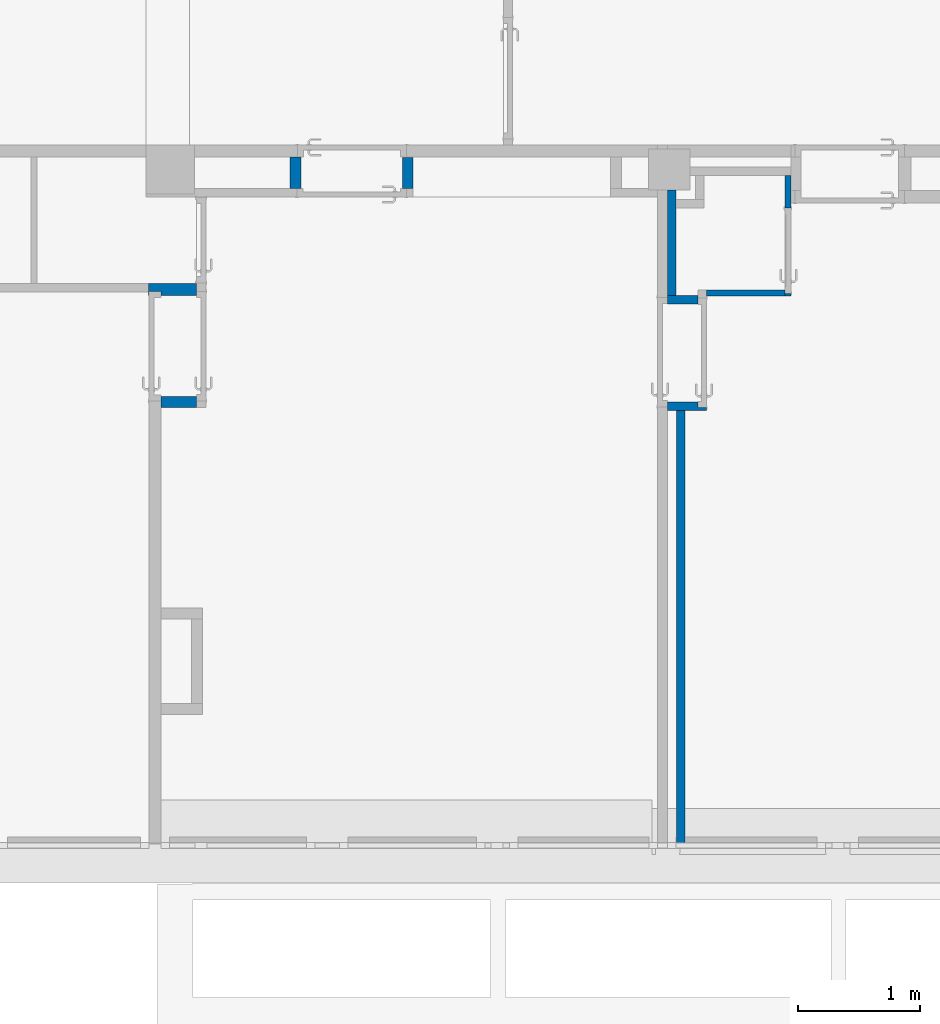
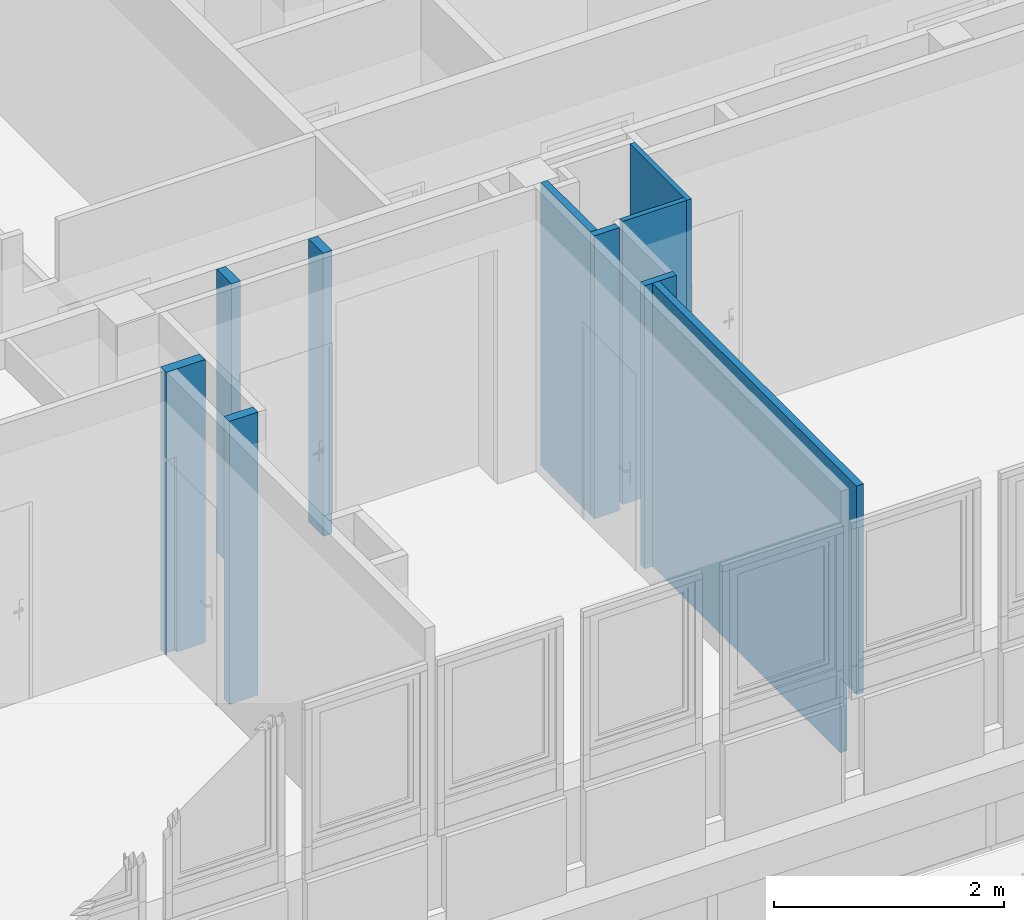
# One storey, part 72 of 97: 10 walls, 4 openings.
"""IFC4 building model written with IfcOpenShell, lengths in metres."""

from ifc_helpers import new_model, entity, si_unit, converted_unit, derived_unit, direction, frame, origin, place, context, subcontext, project, spatial, indexed_curve, outline, extrude, polygons, material, layer, layer_set, type_object, element, save


model = new_model("IFC4")

# Units and contexts
model_context = context("Model", 3, precision=1e-05, world=origin(), true_north=direction((6.12303176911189e-17, 1.0)))
body_context = subcontext(model_context, "Body", "Model", "MODEL_VIEW")
ifc_project = project(units=[si_unit("LENGTHUNIT", "METRE"), si_unit("AREAUNIT", "SQUARE_METRE"), si_unit("VOLUMEUNIT", "CUBIC_METRE"), converted_unit("PLANEANGLEUNIT", "DEGREE", entity("IfcRatioMeasure", 0.0174532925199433), si_unit("PLANEANGLEUNIT", "RADIAN"), dimensions=[0, 0, 0, 0, 0, 0, 0]), si_unit("MASSUNIT", "GRAM", prefix="KILO"), derived_unit("MASSDENSITYUNIT", [(si_unit("MASSUNIT", "GRAM", prefix="KILO"), 1), (si_unit("LENGTHUNIT", "METRE"), -3)]), derived_unit("MOMENTOFINERTIAUNIT", [(si_unit("LENGTHUNIT", "METRE"), 4)]), si_unit("TIMEUNIT", "SECOND"), si_unit("FREQUENCYUNIT", "HERTZ"), si_unit("THERMODYNAMICTEMPERATUREUNIT", "DEGREE_CELSIUS"), derived_unit("THERMALTRANSMITTANCEUNIT", [(si_unit("MASSUNIT", "GRAM", prefix="KILO"), 1), (si_unit("THERMODYNAMICTEMPERATUREUNIT", "KELVIN"), -1), (si_unit("TIMEUNIT", "SECOND"), -3)]), derived_unit("VOLUMETRICFLOWRATEUNIT", [(si_unit("LENGTHUNIT", "METRE"), 3), (si_unit("TIMEUNIT", "SECOND"), -1)]), si_unit("ELECTRICCURRENTUNIT", "AMPERE"), si_unit("ELECTRICVOLTAGEUNIT", "VOLT"), si_unit("POWERUNIT", "WATT"), si_unit("FORCEUNIT", "NEWTON", prefix="KILO"), si_unit("ILLUMINANCEUNIT", "LUX"), si_unit("LUMINOUSFLUXUNIT", "LUMEN"), si_unit("LUMINOUSINTENSITYUNIT", "CANDELA"), derived_unit("USERDEFINED", [(si_unit("MASSUNIT", "GRAM", prefix="KILO"), -1), (si_unit("LENGTHUNIT", "METRE"), -2), (si_unit("TIMEUNIT", "SECOND"), 3), (si_unit("LUMINOUSFLUXUNIT", "LUMEN"), 1)]), derived_unit("LINEARVELOCITYUNIT", [(si_unit("LENGTHUNIT", "METRE"), 1), (si_unit("TIMEUNIT", "SECOND"), -1)]), si_unit("PRESSUREUNIT", "PASCAL"), derived_unit("USERDEFINED", [(si_unit("LENGTHUNIT", "METRE"), -2), (si_unit("MASSUNIT", "GRAM", prefix="KILO"), 1), (si_unit("TIMEUNIT", "SECOND"), -2)]), derived_unit("LINEARFORCEUNIT", [(si_unit("MASSUNIT", "GRAM", prefix="KILO"), 1), (si_unit("LENGTHUNIT", "METRE"), 1), (si_unit("TIMEUNIT", "SECOND"), -2), (si_unit("LENGTHUNIT", "METRE"), -1)]), derived_unit("PLANARFORCEUNIT", [(si_unit("MASSUNIT", "GRAM", prefix="KILO"), 1), (si_unit("LENGTHUNIT", "METRE"), 1), (si_unit("TIMEUNIT", "SECOND"), -2), (si_unit("LENGTHUNIT", "METRE"), -2)])], contexts=[model_context])

# Site, building, storey
site_placement = place(None, origin())
site = spatial("IfcSite", under=ifc_project, at=site_placement, Name="Default", CompositionType="ELEMENT")
building_placement = place(site_placement, origin())
building = spatial("IfcBuilding", under=site, at=building_placement, Name="HOTEL CONSULAIRE BOULOGNE SUR MER", CompositionType="ELEMENT")
storey_placement = place(building_placement, frame((0.0, 0.0, 3.62152697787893)))
storey = spatial("IfcBuildingStorey", under=building, at=storey_placement, Name="Niveau 1", CompositionType="ELEMENT", Elevation=3.62152697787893)

# Wall
ifc_material = material(Name="Mur par défaut", Category="Divers")
ifc_layer_1 = layer(ifc_material, 0.05, Name="Mur par défaut", Category="Divers")
ifc_layer_set_1 = layer_set([ifc_layer_1], Name="Mur de base:Générique - Int.50")
wall_type_1 = type_object("IfcWallType", Name="Mur de base:Générique - Int.50", PredefinedType="NOTDEFINED", material=ifc_layer_set_1)
wall_1_placement = place(storey_placement, frame((-0.277433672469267, -25.030691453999, 0.0), z_axis=(0.0, 0.0, 1.0), x_axis=(-1.0, 0.0, 0.0)))
element("IfcWall", 1, at=wall_1_placement, inside=storey, type_object=wall_type_1, material=ifc_layer_set_1, Name="Mur de base:Générique - Int.50", ObjectType="Mur de base:Générique - Int.50", PredefinedType="NOTDEFINED", context=body_context, shape_type="Tessellation", body=[
    polygons([(0.644710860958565, -0.025000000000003, 3.01021454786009), (0.0, -0.025000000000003, 3.01021454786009), (1.35358391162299e-16, -0.025000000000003, 0.0), (0.644710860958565, -0.025000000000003, 0.0), (1.35358391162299e-16, 0.0249999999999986, 3.01021454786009), (0.644710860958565, 0.0249999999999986, 3.01021454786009), (0.644710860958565, 0.0249999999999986, 0.0), (1.35358391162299e-16, 0.0249999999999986, 0.0), (1.35358391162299e-16, 0.00400000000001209, 0.0)], [[[2, 3, 4, 1]], [[6, 7, 8, 5]], [[1, 4, 7, 6]], [[2, 1, 6, 5]], [[9, 3, 2, 5, 8]], [[9, 8, 7, 4, 3]]], closed=True),
])

# Wall, opening
wall_2_placement = place(storey_placement, frame((-0.252433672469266, -24.0647268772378, 0.0), z_axis=(0.0, 0.0, 1.0), x_axis=(0.0, -1.0, 0.0)))
wall_2 = element("IfcWall", 2, at=wall_2_placement, inside=storey, type_object=wall_type_1, material=ifc_layer_set_1, Name="Mur de base:Générique - Int.50", ObjectType="Mur de base:Générique - Int.50", PredefinedType="NOTDEFINED", context=body_context, shape_type="Tessellation", body=[
    polygons([(0.269964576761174, -0.0250000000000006, 0.0), (0.0, -0.0250000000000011, 0.0), (0.0, 0.0250000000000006, 0.0), (0.125964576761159, 0.0250000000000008, 0.0), (0.225964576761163, 0.0250000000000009, 0.0), (0.269964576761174, 0.025000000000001, 0.0), (0.990964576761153, -0.025, 3.01021454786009), (0.940964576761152, -0.025, 3.01021454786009), (0.0, -0.025, 3.01021454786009), (0.26996457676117, -0.025, 2.07500000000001), (0.969964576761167, -0.025, 2.07500000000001), (0.969964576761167, -0.025, 0.0), (0.990964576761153, -0.025, 0.0), (0.0, 0.025, 3.01021454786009), (0.125964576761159, 0.025, 3.01021454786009), (0.225964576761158, 0.025, 3.01021454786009), (0.990964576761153, 0.025, 3.01021454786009), (0.990964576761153, 0.025, 0.0), (0.969964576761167, 0.025, 0.0), (0.969964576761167, 0.025, 2.07500000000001), (0.269964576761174, 0.025, 2.07500000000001)], [[[5, 6, 1, 2, 3, 4]], [[11, 10, 21, 20]], [[12, 19, 18, 13]], [[2, 1, 10, 11, 12, 13, 7, 8, 9]], [[18, 19, 20, 21, 6, 5, 4, 3, 14, 15, 16, 17]], [[8, 7, 17, 16, 15, 14, 9]], [[7, 13, 18, 17]], [[10, 1, 6, 21]], [[12, 11, 20, 19]], [[3, 2, 9, 14]]], closed=True),
])
opening_1_placement = place(wall_2_placement, frame((0.269964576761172, -0.0249999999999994, 0.0)))
element("IfcOpeningElement", 3, at=opening_1_placement, cuts=wall_2, Name="Int. Simple:PP (0.63m x 2.04m):1", ObjectType="Opening", PredefinedType="OPENING", context=body_context, shape_type="SweptSolid", body=[
    extrude(outline(indexed_curve([(0.0, 2.70716782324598e-15), (2.07500000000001, 2.70716782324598e-15), (2.07500000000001, 0.699999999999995), (0.0, 0.699999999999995), (0.0, 2.70716782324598e-15)], self_intersect=False)), frame((0.0, 0.0, 0.0), z_axis=(0.0, 1.0, 0.0), x_axis=(0.0, 0.0, 1.0)), (0.0, 0.0, 1.0), 0.05),
])

# Wall
ifc_layer_2 = layer(ifc_material, 0.07, Name="Mur par défaut", Category="Divers")
ifc_layer_set_2 = layer_set([ifc_layer_2], Name="Mur de base:Int. Plâtre 70 mm")
wall_type_2 = type_object("IfcWallType", Name="Mur de base:Int. Plâtre 70 mm", PredefinedType="NOTDEFINED", material=ifc_layer_set_2)
wall_3_placement = place(storey_placement, frame((-1.20914453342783, -24.185909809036, 0.0), z_axis=(0.0, 0.0, 1.0), x_axis=(0.0, -1.0, 0.0)))
element("IfcWall", 4, at=wall_3_placement, inside=storey, type_object=wall_type_2, material=ifc_layer_set_2, Name="Mur de base:Int. Plâtre 70 mm", ObjectType="Mur de base:Int. Plâtre 70 mm", PredefinedType="NOTDEFINED", context=body_context, shape_type="Tessellation", body=[
    polygons([(0.865490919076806, -0.0350000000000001, 0.0), (0.865490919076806, -0.0350000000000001, 3.01021454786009), (0.0, -0.0350000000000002, 3.01021454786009), (0.0, -0.0350000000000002, 0.0), (0.865490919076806, 0.0349999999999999, 3.01021454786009), (0.865490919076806, 0.0349999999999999, 0.0), (0.148970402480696, 0.035, 0.0), (0.0789704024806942, 0.035, 0.0), (0.0, 0.035, 0.0), (0.0, 0.035, 3.01021454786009), (0.0789704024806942, 0.035, 3.01021454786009), (0.148970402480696, 0.035, 3.01021454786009)], [[[3, 4, 1, 2]], [[6, 7, 8, 9, 10, 11, 12, 5]], [[3, 2, 5, 12, 11, 10]], [[1, 6, 5, 2]], [[7, 6, 1, 4, 9, 8]], [[4, 3, 10, 9]]], closed=True),
])

# Wall, opening
wall_4_placement = place(storey_placement, frame((-1.24414453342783, -25.962691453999, 0.0)))
wall_4 = element("IfcWall", 5, at=wall_4_placement, inside=storey, type_object=wall_type_2, material=ifc_layer_set_2, Name="Mur de base:Int. Plâtre 70 mm", ObjectType="Mur de base:Int. Plâtre 70 mm", PredefinedType="NOTDEFINED", context=body_context, shape_type="Tessellation", body=[
    polygons([(0.322, -0.0350000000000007, 3.01021454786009), (0.147386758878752, -0.0350000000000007, 3.01021454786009), (0.0773867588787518, -0.0350000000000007, 3.01021454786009), (0.0, -0.0350000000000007, 3.01021454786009), (0.0, -0.0350000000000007, 0.0), (0.322, -0.0350000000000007, 0.0), (0.0, 0.0350000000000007, 3.01021454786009), (0.252, 0.0350000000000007, 3.01021454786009), (0.322, 0.0350000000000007, 3.01021454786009), (0.322, 0.0350000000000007, 2.075), (0.252, 0.0350000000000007, 2.075), (0.252, 0.0350000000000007, 0.0), (0.0, 0.0350000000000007, 0.0), (0.322, -0.0118546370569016, 0.0), (0.322, -0.0118546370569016, 2.075), (0.252, -0.0118546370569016, 2.075), (0.252, -0.0118546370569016, 0.0)], [[[4, 5, 6, 1, 2, 3]], [[9, 10, 11, 12, 13, 7, 8]], [[17, 16, 15, 14]], [[4, 3, 2, 1, 9, 8, 7]], [[15, 10, 9, 1, 6, 14]], [[12, 11, 16, 17]], [[11, 10, 15, 16]], [[6, 5, 13, 12, 17, 14]], [[13, 5, 4, 7]]], closed=True),
])
opening_2_placement = place(wall_4_placement, frame((0.252, -0.0118546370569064, 0.0)))
element("IfcOpeningElement", 6, at=opening_2_placement, cuts=wall_4, Name="Mur de base:Int. Plâtre 70 mm", ObjectType="Opening", PredefinedType="OPENING", context=body_context, shape_type="SweptSolid", body=[
    extrude(outline(indexed_curve([(-0.0349999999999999, -1.0375), (0.035, -1.0375), (0.035, 1.0375), (-0.0349999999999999, 1.0375), (-0.0349999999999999, -1.0375)], self_intersect=False)), frame((0.0350000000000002, 0.0, 1.0375), z_axis=(0.0, 1.0, 0.0), x_axis=(-1.0, 0.0, 0.0)), (0.0, 0.0, 1.0), 0.899999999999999),
])

# Wall
wall_5_placement = place(storey_placement, frame((-0.992144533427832, -25.0864007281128, 0.0), z_axis=(0.0, 0.0, 1.0), x_axis=(-1.0, 0.0, 0.0)))
element("IfcWall", 7, at=wall_5_placement, inside=storey, type_object=wall_type_2, material=ifc_layer_set_2, Name="Mur de base:Int. Plâtre 70 mm", ObjectType="Mur de base:Int. Plâtre 70 mm", PredefinedType="NOTDEFINED", context=body_context, shape_type="Tessellation", body=[
    polygons([(0.252, -0.0350000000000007, 3.01021454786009), (0.182, -0.0350000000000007, 3.01021454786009), (0.0, -0.0350000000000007, 3.01021454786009), (0.0, -0.0350000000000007, 0.0), (0.252, -0.0350000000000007, 0.0), (1.35358391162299e-16, 0.0350000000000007, 3.01021454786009), (0.252, 0.0350000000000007, 3.01021454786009), (0.252, 0.0350000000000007, 0.0), (1.35358391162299e-16, 0.0350000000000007, 0.0)], [[[3, 4, 5, 1, 2]], [[7, 8, 9, 6]], [[2, 1, 7, 6, 3]], [[1, 5, 8, 7]], [[9, 4, 3, 6]], [[5, 4, 9, 8]]], closed=True),
])

# Wall, opening
wall_6_placement = place(storey_placement, frame((-1.13175777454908, -25.997691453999, 0.0), z_axis=(0.0, 0.0, 1.0), x_axis=(0.0, -1.0, 0.0)))
wall_6 = element("IfcWall", 8, at=wall_6_placement, inside=storey, type_object=wall_type_2, material=ifc_layer_set_2, Name="Mur de base:Int. Plâtre 70 mm", ObjectType="Mur de base:Int. Plâtre 70 mm", PredefinedType="NOTDEFINED", context=body_context, shape_type="Tessellation", body=[
    polygons([(3.55637565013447, -0.0349999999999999, 3.01021454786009), (0.0, -0.035, 3.01021454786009), (0.0, -0.035, 0.0), (3.27241326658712, -0.035, 0.0), (3.27241326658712, -0.035, 0.791612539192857), (3.55637565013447, -0.0349999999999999, 0.791612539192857), (0.0, 0.035, 3.01021454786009), (3.55637565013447, 0.035, 3.01021454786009), (3.55637565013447, 0.035, 0.791612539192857), (3.27241326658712, 0.035, 0.791612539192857), (3.27241326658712, 0.035, 0.0), (0.0, 0.035, 0.0)], [[[2, 3, 4, 5, 6, 1]], [[10, 11, 12, 7, 8, 9]], [[12, 3, 2, 7]], [[2, 1, 8, 7]], [[5, 4, 11, 10]], [[1, 6, 9, 8]], [[6, 5, 10, 9]], [[3, 12, 11, 4]]], closed=True),
])
opening_3_placement = place(wall_6_placement, origin())
element("IfcOpeningElement", 9, at=opening_3_placement, cuts=wall_6, Name="Mur de base:Int. Plâtre 70 mm", ObjectType="Opening", PredefinedType="OPENING", context=body_context, shape_type="SweptSolid", body=[
    extrude(outline(indexed_curve([(-0.141981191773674, -0.413306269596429), (0.141981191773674, -0.413306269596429), (0.141981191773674, 0.413306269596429), (-0.141981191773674, 0.413306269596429), (-0.141981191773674, -0.413306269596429)], self_intersect=False)), frame((3.41439445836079, 0.0350000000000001, 0.378306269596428), z_axis=(0.0, -1.0, 0.0), x_axis=(1.0, 0.0, 0.0)), (0.0, 0.0, 1.0), 0.07),
])

ifc_layer_3 = layer(ifc_material, 0.1, Name="Mur par défaut", Category="Divers")
ifc_layer_set_3 = layer_set([ifc_layer_3], Name="Mur de base:Générique - Int. 100 mm")
wall_type_3 = type_object("IfcWallType", Name="Mur de base:Générique - Int. 100 mm", PredefinedType="NOTDEFINED", material=ifc_layer_set_3)
wall_7_placement = place(storey_placement, frame((-5.51077317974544, -25.003647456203, 0.0)))
wall_7 = element("IfcWall", 10, at=wall_7_placement, inside=storey, type_object=wall_type_3, material=ifc_layer_set_3, Name="Mur de base:Générique - Int. 100 mm", ObjectType="Mur de base:Générique - Int. 100 mm", PredefinedType="NOTDEFINED", context=body_context, shape_type="Tessellation", body=[
    polygons([(0.393, -0.049999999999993, 3.01021454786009), (0.103630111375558, -0.0499999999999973, 3.01021454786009), (0.00363011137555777, -0.0499999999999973, 3.01021454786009), (-1.17092667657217e-16, -0.0499999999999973, 3.01021454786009), (-1.17092667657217e-16, -0.0499999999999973, 0.0), (0.00363011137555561, -0.0499999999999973, 0.0), (0.00363011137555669, -0.0499999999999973, 2.075), (0.103630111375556, -0.0499999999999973, 2.075), (0.103630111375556, -0.0499999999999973, 0.0), (0.393, -0.049999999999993, 0.0), (-4.01890072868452e-16, 0.0500000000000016, 3.01021454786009), (0.393, 0.050000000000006, 3.01021454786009), (0.393, 0.050000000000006, 0.0), (-4.01890072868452e-16, 0.0500000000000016, 0.0), (-2.02531889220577e-16, -0.0199999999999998, 3.01021454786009), (-2.02531889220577e-16, -0.0199999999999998, 0.0), (0.393, -0.0148280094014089, 0.0), (0.103630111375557, -0.0159999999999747, 2.075), (0.103630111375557, -0.0159999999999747, 0.0), (0.00363011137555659, -0.0159999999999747, 0.0), (0.00363011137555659, -0.0159999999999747, 2.075)], [[[5, 6, 7, 8, 9, 10, 1, 2, 3, 4]], [[20, 19, 18, 21]], [[12, 13, 14, 11]], [[4, 3, 2, 1, 12, 11, 15]], [[16, 5, 4, 15, 11, 14]], [[18, 19, 9, 8]], [[17, 13, 12, 1, 10]], [[6, 20, 21, 7]], [[21, 18, 8, 7]], [[16, 14, 13, 17, 10, 9, 19, 20, 6, 5]]], closed=True),
])
opening_4_placement = place(wall_7_placement, frame((0.00363011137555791, -0.915999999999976, 0.0)))
element("IfcOpeningElement", 11, at=opening_4_placement, cuts=wall_7, Name="Mur de base:Générique - Int. 100 mm", ObjectType="Opening", PredefinedType="OPENING", context=body_context, shape_type="SweptSolid", body=[
    extrude(outline(indexed_curve([(-0.0499999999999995, -1.0375), (0.0500000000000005, -1.0375), (0.0500000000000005, 1.0375), (-0.0499999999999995, 1.0375), (-0.0499999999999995, -1.0375)], self_intersect=False)), frame((0.0500000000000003, 0.0, 1.0375), z_axis=(0.0, 1.0, 0.0), x_axis=(-1.0, 0.0, 0.0)), (0.0, 0.0, 1.0), 0.899999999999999),
])

# Walls
ifc_layer_4 = layer(ifc_material, 0.09, Name="Mur par défaut", Category="Divers")
ifc_layer_set_4 = layer_set([ifc_layer_4], Name="Mur de base:Générique - Int. 90")
wall_type_4 = type_object("IfcWallType", Name="Mur de base:Générique - Int. 90", PredefinedType="NOTDEFINED", material=ifc_layer_set_4)
wall_8_placement = place(storey_placement, frame((-3.37847729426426, -24.172040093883, 0.0), z_axis=(0.0, 0.0, 1.0), x_axis=(0.0, 1.0, 0.0)))
element("IfcWall", 12, at=wall_8_placement, inside=storey, type_object=wall_type_4, material=ifc_layer_set_4, Name="Mur de base:Générique - Int. 90", ObjectType="Mur de base:Générique - Int. 90", PredefinedType="NOTDEFINED", context=body_context, shape_type="Tessellation", body=[
    polygons([(0.252999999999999, -0.0450000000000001, 3.01021454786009), (0.0, -0.045, 3.01021454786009), (0.0, -0.045, 2.49655241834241), (0.0, -0.045, 0.0), (0.252999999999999, -0.0450000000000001, 0.0), (0.0, 0.0450000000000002, 3.01021454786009), (0.252999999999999, 0.0450000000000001, 3.01021454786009), (0.252999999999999, 0.0450000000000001, 0.0), (0.0, 0.0450000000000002, 0.0), (0.0, 0.0112096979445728, 0.0)], [[[3, 4, 5, 1, 2]], [[7, 8, 9, 6]], [[1, 5, 8, 7]], [[2, 1, 7, 6]], [[10, 4, 3, 2, 6, 9]], [[8, 5, 4, 10, 9]]], closed=True),
])
wall_9_placement = place(storey_placement, frame((-4.3008966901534, -24.172040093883, 0.0), z_axis=(0.0, 0.0, 1.0), x_axis=(0.0, 1.0, 0.0)))
element("IfcWall", 13, at=wall_9_placement, inside=storey, type_object=wall_type_4, material=ifc_layer_set_4, Name="Mur de base:Générique - Int. 90", ObjectType="Mur de base:Générique - Int. 90", PredefinedType="NOTDEFINED", context=body_context, shape_type="Tessellation", body=[
    polygons([(0.257348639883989, -0.0450000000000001, 3.01021454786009), (0.0, -0.0449999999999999, 3.01021454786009), (0.0, -0.0449999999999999, 0.0), (0.257348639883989, -0.0450000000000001, 0.0), (0.0, 0.0450000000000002, 3.01021454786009), (0.257348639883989, 0.045, 3.01021454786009), (0.257348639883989, 0.045, 0.0), (0.0, 0.0450000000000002, 0.0), (0.257348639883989, -0.0140000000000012, 0.0), (0.0, -0.0112096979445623, 0.0)], [[[2, 3, 4, 1]], [[6, 7, 8, 5]], [[2, 1, 6, 5]], [[9, 7, 6, 1, 4]], [[10, 3, 2, 5, 8]], [[9, 4, 3, 10, 8, 7]]], closed=True),
])
wall_10_placement = place(storey_placement, frame((-5.11777317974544, -25.9283034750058, 0.0), z_axis=(0.0, 0.0, 1.0), x_axis=(-1.0, 0.0, 0.0)))
element("IfcWall", 14, at=wall_10_placement, inside=storey, type_object=wall_type_4, material=ifc_layer_set_4, Name="Mur de base:Générique - Int. 90", ObjectType="Mur de base:Générique - Int. 90", PredefinedType="NOTDEFINED", context=body_context, shape_type="Tessellation", body=[
    polygons([(0.289369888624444, -0.0450000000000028, 3.01021454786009), (0.0, -0.0450000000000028, 3.01021454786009), (0.0, -0.0450000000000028, 0.0), (0.289369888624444, -0.0450000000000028, 0.0), (0.0, 0.0449999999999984, 3.01021454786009), (0.289369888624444, 0.0449999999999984, 3.01021454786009), (0.289369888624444, 0.0449999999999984, 0.0), (0.0, 0.0449999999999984, 0.0), (0.0, -0.00982800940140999, 0.0), (0.289369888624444, -0.00865601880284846, 0.0)], [[[2, 3, 4, 1]], [[6, 7, 8, 5]], [[2, 1, 6, 5]], [[9, 3, 2, 5, 8]], [[10, 7, 6, 1, 4]], [[10, 4, 3, 9, 8, 7]]], closed=True),
])

save(model, "model.ifc")
